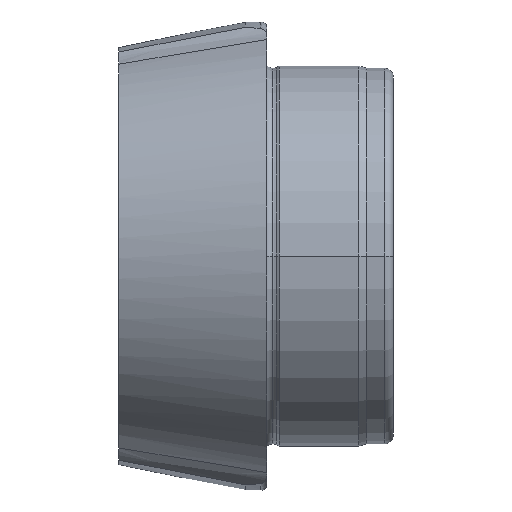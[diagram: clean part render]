
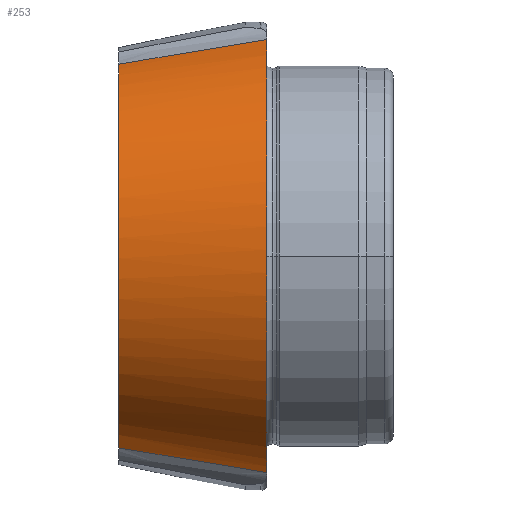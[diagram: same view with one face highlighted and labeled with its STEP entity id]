
A CAD part, left-side view. The second image highlights one B-rep face of the part: STEP entity #253.
In plain terms, the highlighted free-form (B-spline) face has degree [1, 3] with [2, 9] control points.
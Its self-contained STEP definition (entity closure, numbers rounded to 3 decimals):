
#7 = CARTESIAN_POINT ( 'NONE',  ( -3.647, 6., 10.254 ) ) ;
#20 = CARTESIAN_POINT ( 'NONE',  ( -3.233, 13., 9.091 ) ) ;
#51 = EDGE_CURVE ( 'NONE', #112, #871, #557, .T. ) ;
#56 = CARTESIAN_POINT ( 'NONE',  ( -6.68, 6., -8.798 ) ) ;
#58 = LINE ( 'NONE', #898, #529 ) ;
#75 = CARTESIAN_POINT ( 'NONE',  ( -8.706, 13., 4.94 ) ) ;
#104 = CARTESIAN_POINT ( 'NONE',  ( -6.712, 5.7, 8.84 ) ) ;
#112 = VERTEX_POINT ( 'NONE', #1014 ) ;
#120 = CARTESIAN_POINT ( 'NONE',  ( -5.924, 13., -7.798 ) ) ;
#130 = EDGE_CURVE ( 'NONE', #976, #1182, #58, .T. ) ;
#178 = ORIENTED_EDGE ( 'NONE', *, *, #753, .F. ) ;
#194 = CARTESIAN_POINT ( 'NONE',  ( -9.821, 6., -5.571 ) ) ;
#215 = CARTESIAN_POINT ( 'NONE',  ( -5.924, 13., 7.798 ) ) ;
#242 = CARTESIAN_POINT ( 'NONE',  ( -3.647, 6., -10.254 ) ) ;
#253 = ADVANCED_FACE ( 'NONE', ( #377 ), #1070, .T. ) ;
#268 = CARTESIAN_POINT ( 'NONE',  ( -4.709, 5.7, 9.932 ) ) ;
#286 = B_SPLINE_CURVE_WITH_KNOTS ( 'NONE', 3,
 ( #923, #812, #690, #537, #382, #194, #56, #1253, #1129 ),
 .UNSPECIFIED., .F., .F.,
 ( 4, 1, 1, 1, 1, 1, 4 ),
 ( 0., 0.003, 0.007, 0.013, 0.02, 0.023, 0.027 ),
 .UNSPECIFIED. ) ;
#301 = CARTESIAN_POINT ( 'NONE',  ( -4.15, 13., -8.765 ) ) ;
#377 = FACE_OUTER_BOUND ( 'NONE', #870, .T. ) ;
#382 = CARTESIAN_POINT ( 'NONE',  ( -11.591, 6., 0. ) ) ;
#399 = CARTESIAN_POINT ( 'NONE',  ( -4.15, 13., 8.765 ) ) ;
#422 = CARTESIAN_POINT ( 'NONE',  ( -3.233, 13., -9.091 ) ) ;
#445 = CARTESIAN_POINT ( 'NONE',  ( -3.665, 5.7, 10.303 ) ) ;
#468 = CARTESIAN_POINT ( 'NONE',  ( -3.233, 13., -9.091 ) ) ;
#529 = VECTOR ( 'NONE', #792, 1000. ) ;
#537 = CARTESIAN_POINT ( 'NONE',  ( -9.821, 6., 5.571 ) ) ;
#557 = B_SPLINE_CURVE_WITH_KNOTS ( 'NONE', 1,
 ( #422, #242 ),
 .UNSPECIFIED., .F., .F.,
 ( 2, 2 ),
 ( 0.5, 0.74 ),
 .UNSPECIFIED. ) ;
#560 = CARTESIAN_POINT ( 'NONE',  ( -3.233, 13., 9.091 ) ) ;
#635 = B_SPLINE_CURVE_WITH_KNOTS ( 'NONE', 3,
 ( #468, #301, #120, #1324, #1194, #1072, #959, #849, #727 ),
 .UNSPECIFIED., .F., .F.,
 ( 4, 1, 1, 1, 1, 1, 4 ),
 ( 3., 3.5, 4., 5., 6., 6.5, 7. ),
 .UNSPECIFIED. ) ;
#658 = ORIENTED_EDGE ( 'NONE', *, *, #51, .T. ) ;
#690 = CARTESIAN_POINT ( 'NONE',  ( -6.68, 6., 8.798 ) ) ;
#708 = CARTESIAN_POINT ( 'NONE',  ( -3.665, 5.7, -10.303 ) ) ;
#727 = CARTESIAN_POINT ( 'NONE',  ( -3.233, 13., 9.091 ) ) ;
#753 = EDGE_CURVE ( 'NONE', #112, #1182, #635, .T. ) ;
#765 = ORIENTED_EDGE ( 'NONE', *, *, #1170, .F. ) ;
#792 = DIRECTION ( 'NONE',  ( 0.058, 0.985, -0.164 ) ) ;
#805 = CARTESIAN_POINT ( 'NONE',  ( -3.233, 13., -9.091 ) ) ;
#812 = CARTESIAN_POINT ( 'NONE',  ( -4.686, 6., 9.884 ) ) ;
#828 = CARTESIAN_POINT ( 'NONE',  ( -4.709, 5.7, -9.932 ) ) ;
#849 = CARTESIAN_POINT ( 'NONE',  ( -4.15, 13., 8.765 ) ) ;
#870 = EDGE_LOOP ( 'NONE', ( #1000, #178, #658, #765 ) ) ;
#871 = VERTEX_POINT ( 'NONE', #965 ) ;
#898 = CARTESIAN_POINT ( 'NONE',  ( -3.449, 9.35, 9.697 ) ) ;
#911 = CARTESIAN_POINT ( 'NONE',  ( -4.15, 13., -8.765 ) ) ;
#923 = CARTESIAN_POINT ( 'NONE',  ( -3.647, 6., 10.254 ) ) ;
#941 = CARTESIAN_POINT ( 'NONE',  ( -6.712, 5.7, -8.84 ) ) ;
#959 = CARTESIAN_POINT ( 'NONE',  ( -5.924, 13., 7.798 ) ) ;
#965 = CARTESIAN_POINT ( 'NONE',  ( -3.647, 6., -10.254 ) ) ;
#976 = VERTEX_POINT ( 'NONE', #7 ) ;
#1000 = ORIENTED_EDGE ( 'NONE', *, *, #130, .T. ) ;
#1014 = CARTESIAN_POINT ( 'NONE',  ( -3.233, 13., -9.091 ) ) ;
#1031 = CARTESIAN_POINT ( 'NONE',  ( -5.924, 13., -7.798 ) ) ;
#1058 = CARTESIAN_POINT ( 'NONE',  ( -9.869, 5.7, -5.598 ) ) ;
#1070 = B_SPLINE_SURFACE_WITH_KNOTS ( 'NONE', 1, 3, ( 
 ( #445, #268, #104, #1300, #1169, #1058, #941, #828, #708 ),
 ( #560, #399, #215, #75, #1268, #1142, #1031, #911, #805 ) ),
 .UNSPECIFIED., .F., .F., .F.,
 ( 2, 2 ),
 ( 4, 1, 1, 1, 1, 1, 4 ),
 ( 0.5, 0.75 ),
 ( 3., 3.5, 4., 5., 6., 6.5, 7. ),
 .UNSPECIFIED. ) ;
#1072 = CARTESIAN_POINT ( 'NONE',  ( -8.706, 13., 4.94 ) ) ;
#1129 = CARTESIAN_POINT ( 'NONE',  ( -3.647, 6., -10.254 ) ) ;
#1142 = CARTESIAN_POINT ( 'NONE',  ( -8.706, 13., -4.94 ) ) ;
#1169 = CARTESIAN_POINT ( 'NONE',  ( -11.647, 5.7, 0. ) ) ;
#1170 = EDGE_CURVE ( 'NONE', #976, #871, #286, .T. ) ;
#1182 = VERTEX_POINT ( 'NONE', #20 ) ;
#1194 = CARTESIAN_POINT ( 'NONE',  ( -10.277, 13., 0. ) ) ;
#1253 = CARTESIAN_POINT ( 'NONE',  ( -4.686, 6., -9.884 ) ) ;
#1268 = CARTESIAN_POINT ( 'NONE',  ( -10.277, 13., 0. ) ) ;
#1300 = CARTESIAN_POINT ( 'NONE',  ( -9.869, 5.7, 5.598 ) ) ;
#1324 = CARTESIAN_POINT ( 'NONE',  ( -8.706, 13., -4.94 ) ) ;
